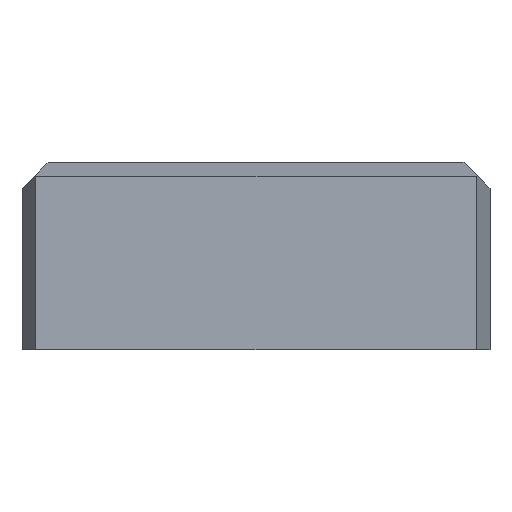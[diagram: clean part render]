
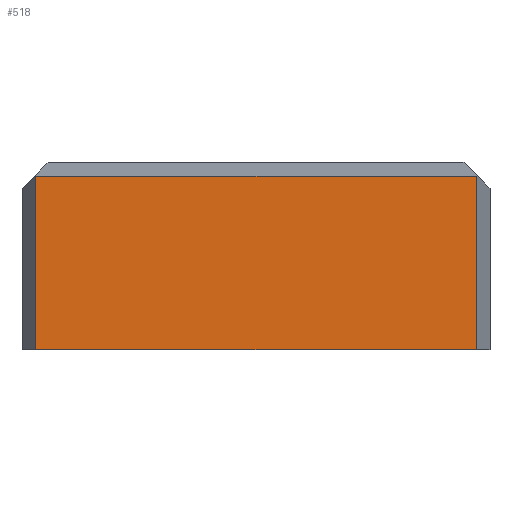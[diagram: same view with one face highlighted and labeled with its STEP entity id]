
A CAD part, front view. The second image highlights one B-rep face of the part: STEP entity #518.
In plain terms, the highlighted planar face has unit normal (0, -1, 0).
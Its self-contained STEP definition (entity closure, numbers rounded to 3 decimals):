
#98=CARTESIAN_POINT('Vertex',(42.321,0.,-36.)) ;
#101=CARTESIAN_POINT('Line Origine',(0.,0.,-36.)) ;
#105=CARTESIAN_POINT('Vertex',(-42.321,0.,-36.)) ;
#479=CARTESIAN_POINT('Vertex',(42.321,0.,-2.679)) ;
#482=CARTESIAN_POINT('Line Origine',(42.321,0.,-19.34)) ;
#495=CARTESIAN_POINT('Axis2P3D Location',(-42.321,0.,-36.)) ;
#500=CARTESIAN_POINT('Line Origine',(0.,0.,-2.679)) ;
#504=CARTESIAN_POINT('Vertex',(-42.321,0.,-2.679)) ;
#507=CARTESIAN_POINT('Line Origine',(-42.321,0.,-19.34)) ;
#102=DIRECTION('Vector Direction',(1.,0.,0.)) ;
#483=DIRECTION('Vector Direction',(0.,0.,1.)) ;
#496=DIRECTION('Axis2P3D Direction',(0.,-1.,0.)) ;
#497=DIRECTION('Axis2P3D XDirection',(0.,0.,-1.)) ;
#501=DIRECTION('Vector Direction',(-1.,0.,0.)) ;
#508=DIRECTION('Vector Direction',(0.,0.,1.)) ;
#498=AXIS2_PLACEMENT_3D('Plane Axis2P3D',#495,#496,#497) ;
#513=ORIENTED_EDGE('',*,*,#486,.T.) ;
#514=ORIENTED_EDGE('',*,*,#506,.T.) ;
#515=ORIENTED_EDGE('',*,*,#511,.F.) ;
#516=ORIENTED_EDGE('',*,*,#107,.T.) ;
#103=VECTOR('Line Direction',#102,1.) ;
#484=VECTOR('Line Direction',#483,1.) ;
#502=VECTOR('Line Direction',#501,1.) ;
#509=VECTOR('Line Direction',#508,1.) ;
#518=ADVANCED_FACE('A927-90X224X36',(#517),#499,.T.) ;
#107=EDGE_CURVE('',#106,#99,#104,.T.) ;
#486=EDGE_CURVE('',#99,#480,#485,.T.) ;
#506=EDGE_CURVE('',#480,#505,#503,.T.) ;
#511=EDGE_CURVE('',#106,#505,#510,.T.) ;
#512=EDGE_LOOP('',(#513,#514,#515,#516)) ;
#517=FACE_OUTER_BOUND('',#512,.T.) ;
#104=LINE('Line',#101,#103) ;
#485=LINE('Line',#482,#484) ;
#503=LINE('Line',#500,#502) ;
#510=LINE('Line',#507,#509) ;
#499=PLANE('Plane',#498) ;
#99=VERTEX_POINT('',#98) ;
#106=VERTEX_POINT('',#105) ;
#480=VERTEX_POINT('',#479) ;
#505=VERTEX_POINT('',#504) ;
